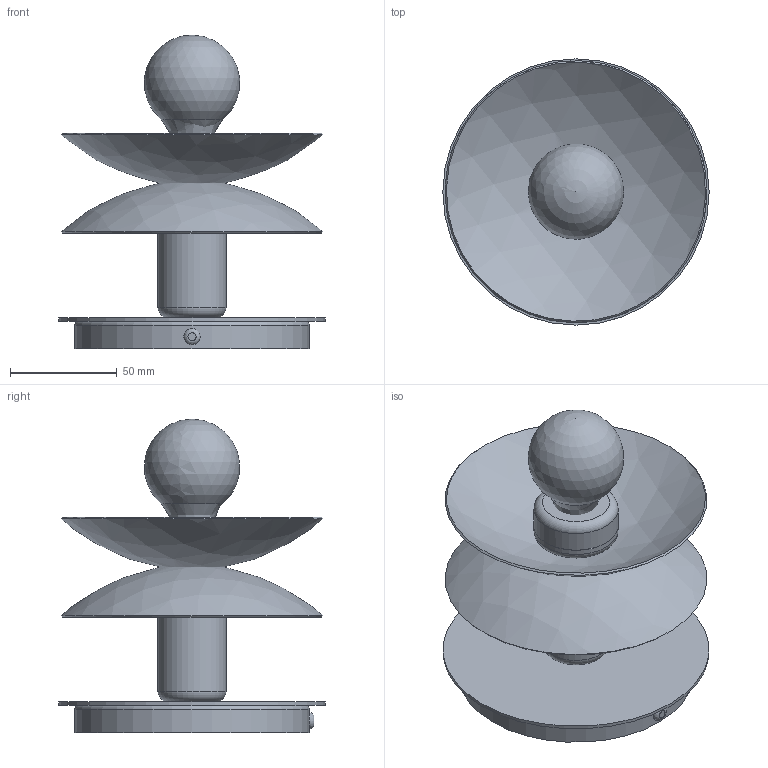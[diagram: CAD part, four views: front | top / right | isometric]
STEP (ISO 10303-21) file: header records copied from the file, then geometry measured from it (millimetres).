
FILE_DESCRIPTION(/* description */ (''),/* implementation_level */ '2;1');
FILE_NAME(/* name */ '260826_B_B788 Babylon One.stp',/* time_stamp */ '2026-08-26T13:48:35+02:00',/* author */ ('Lukasz'),/* organization */ (''),/* preprocessor_version */ 'ST-DEVELOPER v20.1',/* originating_system */ 'Autodesk Inventor 2027',/* authorisation */ '');
FILE_SCHEMA (('AUTOMOTIVE_DESIGN { 1 0 10303 214 3 1 1 }'));
Length unit declared in the file: millimetre
Products named in the file (1): B788 Babylon One v1 CE - katalog część
Bounding box: 125 x 125 x 147.3 mm (x, y, z)
Volume: 304376.4 mm3; surface area: 130809.4 mm2
Topology: 10 solids, 10 shells, 125 faces, 275 edges, 174 vertices
Faces by surface type: plane 57, cylinder 46, torus 10, sphere 5, cone 4, bspline 3
Full cylindrical faces by diameter (mm): 4 x1, 7 x1, 7.6 x1, 9 x1, 12 x1, 17 x1, 29 x2, 32 x1, 39.5 x2, 110 x1, 125 x1
Entity records: 3841 total; most frequent: CARTESIAN_POINT 744, DIRECTION 657, ORIENTED_EDGE 548, EDGE_CURVE 274, AXIS2_PLACEMENT_3D 263, VERTEX_POINT 174, CIRCLE 140, STYLED_ITEM 135
